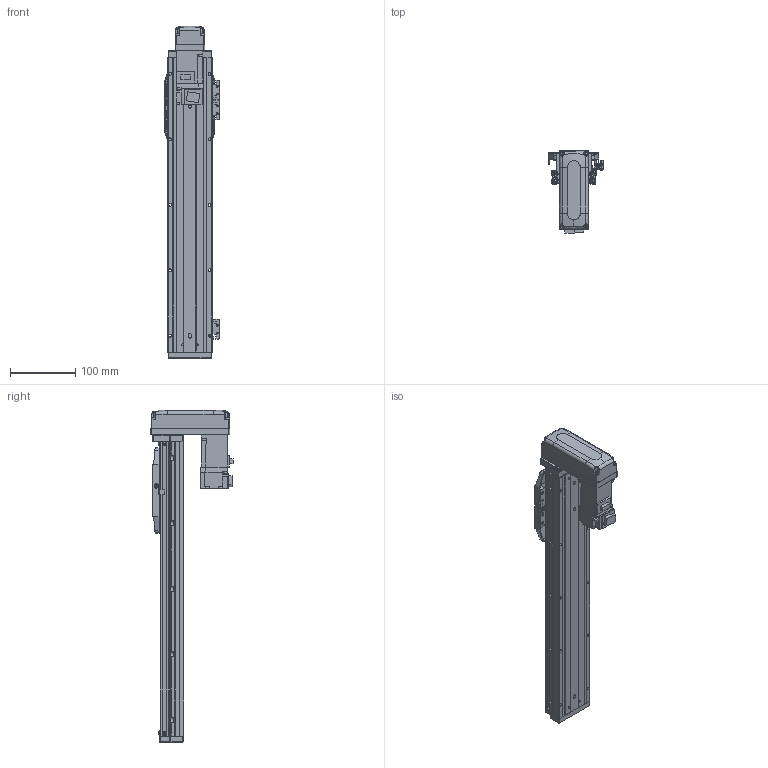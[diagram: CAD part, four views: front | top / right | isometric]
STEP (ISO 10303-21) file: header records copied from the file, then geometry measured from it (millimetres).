
FILE_DESCRIPTION (( 'STEP AP203' ), '1' );
FILE_NAME ('CTHA60-300-BM-M10-C4L.step', '2022-03-19T06:17:18', ( '微软用户' ), ( '微软中国' ), 'SwSTEP 2.0', 'SolidWorks 2020', '' );
FILE_SCHEMA (( 'CONFIG_CONTROL_DESIGN' ));
Length unit declared in the file: millimetre
Products named in the file (18): GBT 70.3-M3℅6; CTHA60-001_450; CTHA60-300-BM-M10-C4L; CTHA60-016; CTHA60-004; HG-KR13（三菱）; CTHA60-005; CTHA60-002; GB¨uT 70.2-M3¡Á6_M3¡Á6; GBT 70.1-M4×16; CTHA60-031; EE_SX911P_R; GBT77-2000 M3×3; CTHA60-006-1; CTHA60-017; GBT 70.1-M3℅6; CTHA60-033; CTHA60-021
Assembly tree (54 placements, depth 2):
  CTHA60-300-BM-M10-C4L
    CTHA60-001_450
    CTHA60-004
    CTHA60-005
    GB¨uT 70.2-M3¡Á6_M3¡Á6  x10
    EE_SX911P_R  x3
    CTHA60-017  x3
    CTHA60-021  x2
    GBT 70.1-M4×16  x10
    GBT77-2000 M3×3  x6
    GBT 70.1-M3℅6  x6
    GBT 70.3-M3℅6  x4
    CTHA60-016  x2
    HG-KR13（三菱）
    CTHA60-002
    CTHA60-031
    CTHA60-006-1
    CTHA60-033
Bounding box: 83.12 x 125.3 x 507 mm (x, y, z)
Volume: 977327 mm3; surface area: 306537.2 mm2
Topology: 56 solids, 56 shells, 2474 faces, 5925 edges, 3649 vertices
Faces by surface type: plane 1425, cylinder 565, cone 336, torus 92, bspline 32, sphere 24
Entity records: 43719 total; most frequent: CARTESIAN_POINT 8474, DIRECTION 6726, ORIENTED_EDGE 6658, EDGE_CURVE 3329, VECTOR 2358, LINE 2358, AXIS2_PLACEMENT_3D 2184, VERTEX_POINT 2108
